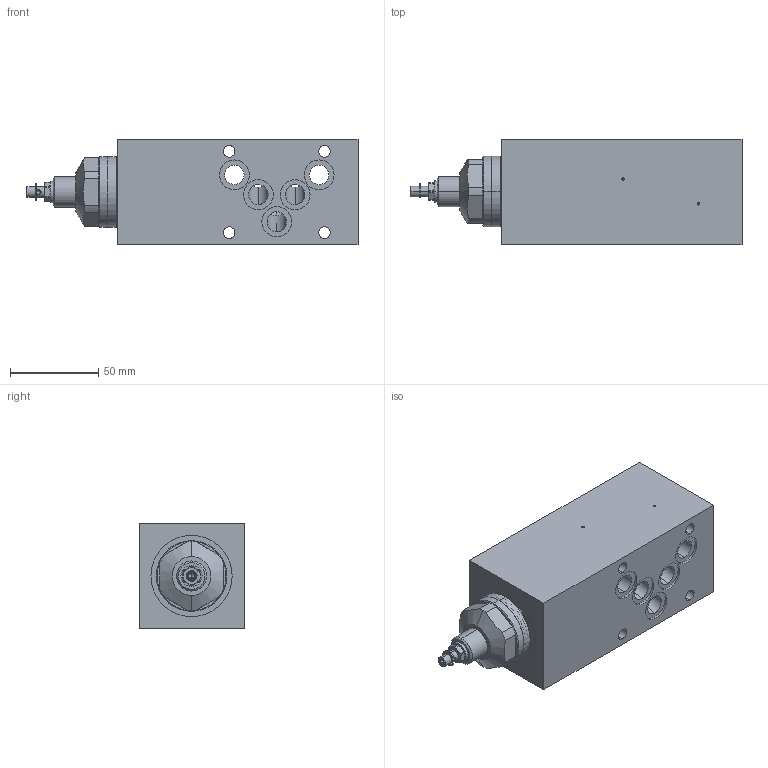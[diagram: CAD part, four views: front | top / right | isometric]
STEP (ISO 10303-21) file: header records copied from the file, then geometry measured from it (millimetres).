
FILE_DESCRIPTION (( 'STEP AP214' ), '1' );
FILE_NAME ('QZSSA10-P.STEP', '2017-04-12T14:00:42', ( '' ), ( '' ), 'SwSTEP 2.0', 'SolidWorks 2016', '' );
FILE_SCHEMA (( 'AUTOMOTIVE_DESIGN' ));
Length unit declared in the file: millimetre
Products named in the file (1): QZSSA10-P
Bounding box: 188 x 59.5 x 60 mm (x, y, z)
Volume: 476971.8 mm3; surface area: 60644.3 mm2
Topology: 3 solids, 5 shells, 270 faces, 656 edges, 402 vertices
Faces by surface type: cylinder 115, plane 84, cone 59, torus 8, sphere 4
Entity records: 11128 total; most frequent: CARTESIAN_POINT 1785, DIRECTION 1392, ORIENTED_EDGE 1276, EDGE_CURVE 638, AXIS2_PLACEMENT_3D 569, VERTEX_POINT 402, EDGE_LOOP 312, CIRCLE 298
